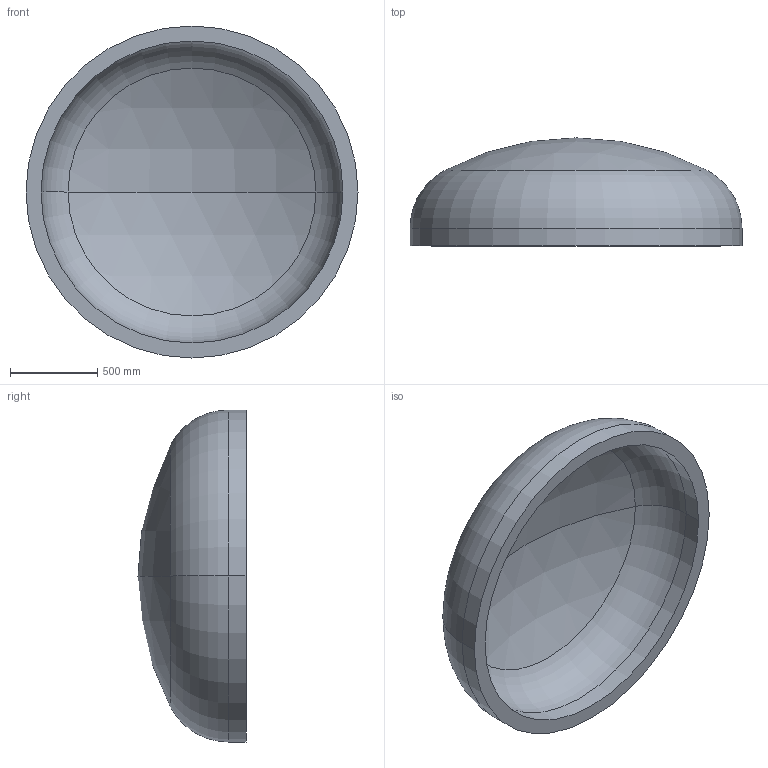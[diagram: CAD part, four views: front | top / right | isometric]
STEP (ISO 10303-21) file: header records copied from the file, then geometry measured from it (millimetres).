
FILE_DESCRIPTION (( 'STEP AP203' ), '1' );
FILE_NAME ('DIN 28013 Korbbogenform_-_Boden DIN 28013 - 1900 x 100 - I - s=86.step', '2016-07-01T13:22:02', ( '' ), ( '' ), 'SwSTEP 2.0', 'SolidWorks 2013', '' );
FILE_SCHEMA (( 'CONFIG_CONTROL_DESIGN' ));
Length unit declared in the file: millimetre
Products named in the file (1): DIN 28013 Korbbogenform_-_Boden DIN 28013 - 1900 x 100 - I - s=86
Bounding box: 1900 x 618.15 x 1900 mm (x, y, z)
Volume: 366985804 mm3; surface area: 9040142.4 mm2
Topology: 1 solids, 1 shells, 13 faces, 24 edges, 14 vertices
Faces by surface type: torus 4, cylinder 4, sphere 4, plane 1
Entity records: 407 total; most frequent: DIRECTION 72, CARTESIAN_POINT 52, ORIENTED_EDGE 48, AXIS2_PLACEMENT_3D 34, EDGE_CURVE 24, CIRCLE 20, EDGE_LOOP 14, VERTEX_POINT 14
